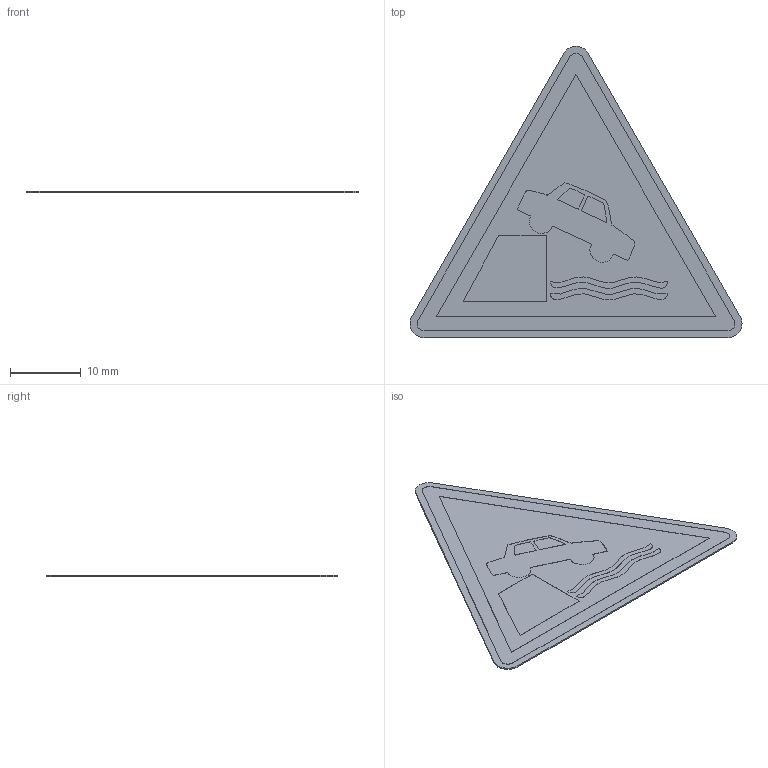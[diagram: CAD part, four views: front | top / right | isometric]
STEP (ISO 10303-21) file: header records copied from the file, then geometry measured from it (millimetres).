
FILE_DESCRIPTION (( 'STEP AP214' ), '1' );
FILE_NAME ('W051_Warnung vor ungesicherter Uferkant.STEP', '2022-03-04T06:01:22', ( '' ), ( '' ), 'SwSTEP 2.0', 'SolidWorks 2021', '' );
FILE_SCHEMA (( 'AUTOMOTIVE_DESIGN' ));
Length unit declared in the file: millimetre
Products named in the file (1): W051_Warnung vor ungesicherter Uferkant
Bounding box: 47.07 x 41.3 x 0.22 mm (x, y, z)
Volume: 223.8 mm3; surface area: 2185.6 mm2
Topology: 1 solids, 1 shells, 177 faces, 501 edges, 334 vertices
Faces by surface type: plane 159, cylinder 18
Entity records: 7511 total; most frequent: CARTESIAN_POINT 1013, ORIENTED_EDGE 1002, DIRECTION 893, EDGE_CURVE 501, LINE 465, VECTOR 465, VERTEX_POINT 334, AXIS2_PLACEMENT_3D 214
